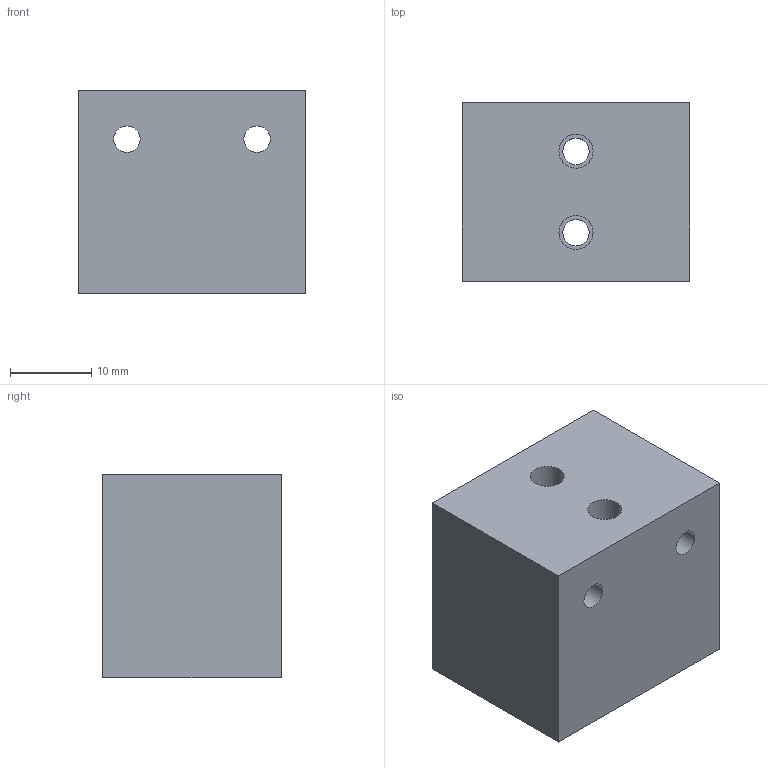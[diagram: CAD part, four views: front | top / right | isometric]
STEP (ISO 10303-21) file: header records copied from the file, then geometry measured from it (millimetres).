
FILE_DESCRIPTION(('Open CASCADE Model'),'2;1');
FILE_NAME('Open CASCADE Shape Model','2026-11-08T07:33:08',('Author'),( 'Open CASCADE'),'Open CASCADE STEP processor 7.8','Open CASCADE 7.8' ,'Unknown');
FILE_SCHEMA(('AUTOMOTIVE_DESIGN { 1 0 10303 214 1 1 1 1 }'));
Length unit declared in the file: millimetre
Products named in the file (1): Open CASCADE STEP translator 7.8 16
Bounding box: 28 x 22 x 25 mm (x, y, z)
Volume: 14321.7 mm3; surface area: 4785.9 mm2
Topology: 1 solids, 1 shells, 18 faces, 36 edges, 24 vertices
Faces by surface type: plane 10, cylinder 8
Full cylindrical faces by diameter (mm): 3.242 x4, 4.2 x4
Entity records: 1018 total; most frequent: CARTESIAN_POINT 247, DIRECTION 146, LINE 76, VECTOR 76, ORIENTED_EDGE 72, PCURVE 72, DEFINITIONAL_REPRESENTATION 72, EDGE_CURVE 36
